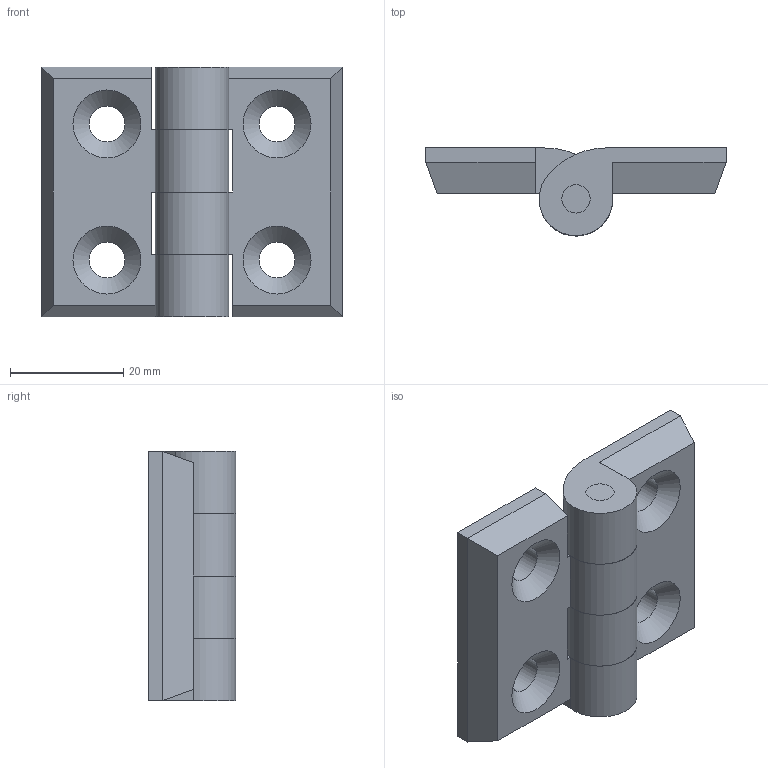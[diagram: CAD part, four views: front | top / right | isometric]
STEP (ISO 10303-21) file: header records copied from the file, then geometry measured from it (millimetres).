
FILE_DESCRIPTION((''),'2;1');
FILE_NAME('E:\catalogue and flyer\Profile catalogue 2015\Accessories ACC info\Accessories ACC step file 31Mar16\ACC-H5344-8.stp','2016-04-07T13:15:00',('h029'),(''),'Autodesk Inventor 11','Autodesk Inventor 11','');
FILE_SCHEMA(('AUTOMOTIVE_DESIGN { 1 0 10303 214 1 1 1 1 }'));
Length unit declared in the file: millimetre
Products named in the file (3): ACC-H5344-8; hinge 5344 part 1; pin
Assembly tree (3 placements, depth 2):
  ACC-H5344-8
    hinge 5344 part 1  x2
    pin
Bounding box: 53 x 15.5 x 44 mm (x, y, z)
Volume: 18514.5 mm3; surface area: 9413.7 mm2
Topology: 3 solids, 3 shells, 57 faces, 147 edges, 96 vertices
Faces by surface type: plane 36, cylinder 13, bspline 8
Full cylindrical faces by diameter (mm): 5 x5
Entity records: 994 total; most frequent: CARTESIAN_POINT 217, DIRECTION 150, ORIENTED_EDGE 132, EDGE_CURVE 66, AXIS2_PLACEMENT_3D 52, VERTEX_POINT 47, VECTOR 46, LINE 46
